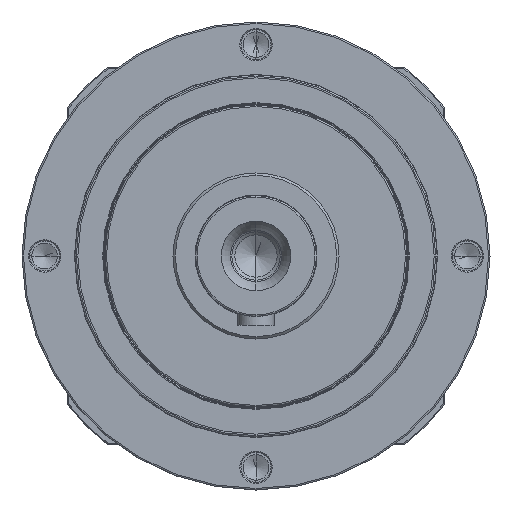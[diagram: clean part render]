
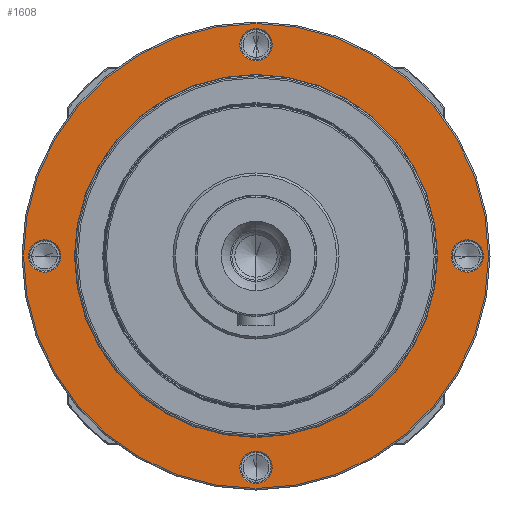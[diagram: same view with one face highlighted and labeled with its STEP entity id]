
A CAD part, left-side view. The second image highlights one B-rep face of the part: STEP entity #1608.
In plain terms, the highlighted planar face has unit normal (-1, 0, 0).
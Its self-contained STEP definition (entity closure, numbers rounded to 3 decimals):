
#308=CARTESIAN_POINT('',(9.5,70.,0.));
#309=DIRECTION('',(1.,0.,0.));
#310=DIRECTION('',(0.,-1.,0.));
#311=AXIS2_PLACEMENT_3D('',#308,#309,#310);
#313=CARTESIAN_POINT('',(9.5,70.,0.));
#314=DIRECTION('',(1.,0.,0.));
#315=DIRECTION('',(0.,1.,0.));
#316=AXIS2_PLACEMENT_3D('',#313,#314,#315);
#318=CARTESIAN_POINT('',(9.5,0.,-70.));
#319=DIRECTION('',(1.,0.,0.));
#320=DIRECTION('',(0.,0.,-1.));
#321=AXIS2_PLACEMENT_3D('',#318,#319,#320);
#323=CARTESIAN_POINT('',(9.5,0.,-70.));
#324=DIRECTION('',(1.,0.,0.));
#325=DIRECTION('',(0.,0.,1.));
#326=AXIS2_PLACEMENT_3D('',#323,#324,#325);
#328=CARTESIAN_POINT('',(9.5,-70.,0.));
#329=DIRECTION('',(1.,0.,0.));
#330=DIRECTION('',(0.,-1.,0.));
#331=AXIS2_PLACEMENT_3D('',#328,#329,#330);
#333=CARTESIAN_POINT('',(9.5,-70.,0.));
#334=DIRECTION('',(1.,0.,0.));
#335=DIRECTION('',(0.,1.,0.));
#336=AXIS2_PLACEMENT_3D('',#333,#334,#335);
#338=CARTESIAN_POINT('',(9.5,0.,70.));
#339=DIRECTION('',(1.,0.,0.));
#340=DIRECTION('',(0.,0.,1.));
#341=AXIS2_PLACEMENT_3D('',#338,#339,#340);
#343=CARTESIAN_POINT('',(9.5,0.,70.));
#344=DIRECTION('',(1.,0.,0.));
#345=DIRECTION('',(0.,0.,-1.));
#346=AXIS2_PLACEMENT_3D('',#343,#344,#345);
#348=CARTESIAN_POINT('',(9.5,0.,0.));
#349=DIRECTION('',(1.,0.,0.));
#350=DIRECTION('',(0.,1.,0.));
#351=AXIS2_PLACEMENT_3D('',#348,#349,#350);
#353=CARTESIAN_POINT('',(9.5,0.,0.));
#354=DIRECTION('',(1.,0.,0.));
#355=DIRECTION('',(0.,-1.,0.));
#356=AXIS2_PLACEMENT_3D('',#353,#354,#355);
#358=CARTESIAN_POINT('',(9.5,0.,0.));
#359=DIRECTION('',(-1.,0.,0.));
#360=DIRECTION('',(0.,1.,0.));
#361=AXIS2_PLACEMENT_3D('',#358,#359,#360);
#363=CARTESIAN_POINT('',(9.5,0.,0.));
#364=DIRECTION('',(-1.,0.,0.));
#365=DIRECTION('',(0.,-1.,0.));
#366=AXIS2_PLACEMENT_3D('',#363,#364,#365);
#995=CARTESIAN_POINT('',(9.5,64.65,0.));
#996=CARTESIAN_POINT('',(9.5,75.35,0.));
#997=VERTEX_POINT('',#995);
#998=VERTEX_POINT('',#996);
#999=CARTESIAN_POINT('',(9.5,0.,-75.35));
#1000=CARTESIAN_POINT('',(9.5,0.,-64.65));
#1001=VERTEX_POINT('',#999);
#1002=VERTEX_POINT('',#1000);
#1003=CARTESIAN_POINT('',(9.5,-75.35,0.));
#1004=CARTESIAN_POINT('',(9.5,-64.65,0.));
#1005=VERTEX_POINT('',#1003);
#1006=VERTEX_POINT('',#1004);
#1007=CARTESIAN_POINT('',(9.5,0.,
75.35));
#1008=CARTESIAN_POINT('',(9.5,0.,
64.65));
#1009=VERTEX_POINT('',#1007);
#1010=VERTEX_POINT('',#1008);
#1039=CARTESIAN_POINT('',(9.5,77.,0.));
#1040=CARTESIAN_POINT('',(9.5,-77.,0.));
#1041=VERTEX_POINT('',#1039);
#1042=VERTEX_POINT('',#1040);
#1059=CARTESIAN_POINT('',(9.5,60.1,0.));
#1060=CARTESIAN_POINT('',(9.5,-60.1,0.));
#1061=VERTEX_POINT('',#1059);
#1062=VERTEX_POINT('',#1060);
#1568=CARTESIAN_POINT('',(9.5,0.,0.));
#1569=DIRECTION('',(-1.,0.,0.));
#1570=DIRECTION('',(0.,1.,0.));
#1571=AXIS2_PLACEMENT_3D('',#1568,#1569,#1570);
#1572=PLANE('',#1571);
#1574=ORIENTED_EDGE('',*,*,#1573,.T.);
#1576=ORIENTED_EDGE('',*,*,#1575,.T.);
#1577=EDGE_LOOP('',(#1574,#1576));
#1578=FACE_OUTER_BOUND('',#1577,.F.);
#1580=ORIENTED_EDGE('',*,*,#1579,.F.);
#1582=ORIENTED_EDGE('',*,*,#1581,.F.);
#1583=EDGE_LOOP('',(#1580,#1582));
#1584=FACE_BOUND('',#1583,.F.);
#1586=ORIENTED_EDGE('',*,*,#1585,.F.);
#1588=ORIENTED_EDGE('',*,*,#1587,.F.);
#1589=EDGE_LOOP('',(#1586,#1588));
#1590=FACE_BOUND('',#1589,.F.);
#1592=ORIENTED_EDGE('',*,*,#1591,.F.);
#1594=ORIENTED_EDGE('',*,*,#1593,.F.);
#1595=EDGE_LOOP('',(#1592,#1594));
#1596=FACE_BOUND('',#1595,.F.);
#1598=ORIENTED_EDGE('',*,*,#1597,.F.);
#1600=ORIENTED_EDGE('',*,*,#1599,.F.);
#1601=EDGE_LOOP('',(#1598,#1600));
#1602=FACE_BOUND('',#1601,.F.);
#1604=ORIENTED_EDGE('',*,*,#1603,.T.);
#1605=ORIENTED_EDGE('',*,*,#1558,.T.);
#1606=EDGE_LOOP('',(#1604,#1605));
#1607=FACE_BOUND('',#1606,.F.);
#1608=ADVANCED_FACE('',(#1578,#1584,#1590,#1596,#1602,#1607),#1572,.T.);
#312=CIRCLE('',#311,5.35);
#317=CIRCLE('',#316,5.35);
#322=CIRCLE('',#321,5.35);
#327=CIRCLE('',#326,5.35);
#332=CIRCLE('',#331,5.35);
#337=CIRCLE('',#336,5.35);
#342=CIRCLE('',#341,5.35);
#347=CIRCLE('',#346,5.35);
#352=CIRCLE('',#351,77.);
#357=CIRCLE('',#356,77.);
#362=CIRCLE('',#361,60.1);
#367=CIRCLE('',#366,60.1);
#1558=EDGE_CURVE('',#1062,#1061,#367,.T.);
#1573=EDGE_CURVE('',#1041,#1042,#352,.T.);
#1575=EDGE_CURVE('',#1042,#1041,#357,.T.);
#1579=EDGE_CURVE('',#997,#998,#312,.T.);
#1581=EDGE_CURVE('',#998,#997,#317,.T.);
#1585=EDGE_CURVE('',#1001,#1002,#322,.T.);
#1587=EDGE_CURVE('',#1002,#1001,#327,.T.);
#1591=EDGE_CURVE('',#1005,#1006,#332,.T.);
#1593=EDGE_CURVE('',#1006,#1005,#337,.T.);
#1597=EDGE_CURVE('',#1009,#1010,#342,.T.);
#1599=EDGE_CURVE('',#1010,#1009,#347,.T.);
#1603=EDGE_CURVE('',#1061,#1062,#362,.T.);
